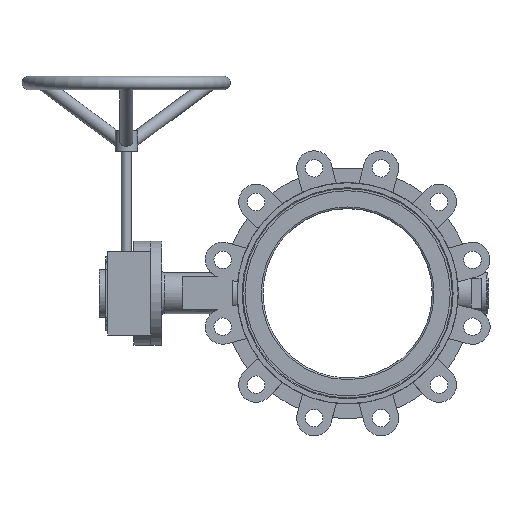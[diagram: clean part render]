
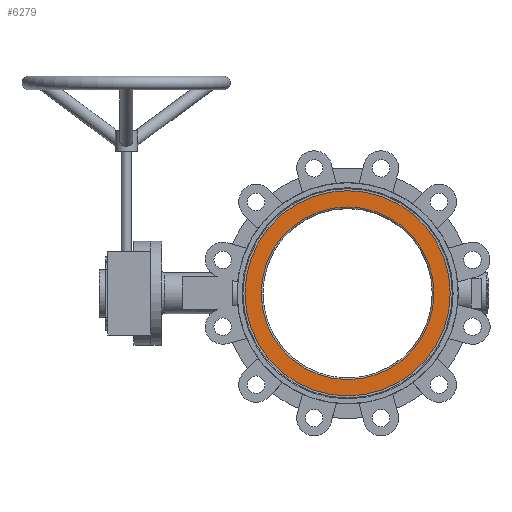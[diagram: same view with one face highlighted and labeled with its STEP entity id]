
A CAD part, left-side view. The second image highlights one B-rep face of the part: STEP entity #6279.
In plain terms, the highlighted planar face has unit normal (-1, 0, 0).
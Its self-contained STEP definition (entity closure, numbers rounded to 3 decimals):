
#402 = AXIS2_PLACEMENT_3D ( 'NONE', #425, #2094, #1271 ) ;
#425 = CARTESIAN_POINT ( 'NONE',  ( -32., 0., 0. ) ) ;
#512 = VERTEX_POINT ( 'NONE', #5973 ) ;
#1154 = CARTESIAN_POINT ( 'NONE',  ( -32., 0., 123. ) ) ;
#1157 = EDGE_LOOP ( 'NONE', ( #5480 ) ) ;
#1269 = VERTEX_POINT ( 'NONE', #1154 ) ;
#1271 = DIRECTION ( 'NONE',  ( 0., 0., 1. ) ) ;
#1969 = DIRECTION ( 'NONE',  ( 1., 0., 0. ) ) ;
#2094 = DIRECTION ( 'NONE',  ( -1., 0., 0. ) ) ;
#2171 = FACE_BOUND ( 'NONE', #5149, .T. ) ;
#2804 = FACE_OUTER_BOUND ( 'NONE', #1157, .T. ) ;
#2848 = CARTESIAN_POINT ( 'NONE',  ( -32., 0., 0. ) ) ;
#4984 = ORIENTED_EDGE ( 'NONE', *, *, #9302, .F. ) ;
#5149 = EDGE_LOOP ( 'NONE', ( #4984 ) ) ;
#5480 = ORIENTED_EDGE ( 'NONE', *, *, #9770, .T. ) ;
#5973 = CARTESIAN_POINT ( 'NONE',  ( -32., 0., 103.501 ) ) ;
#6279 = ADVANCED_FACE ( 'NONE', ( #2171, #2804 ), #9100, .F. ) ;
#6324 = AXIS2_PLACEMENT_3D ( 'NONE', #2848, #8503, #8443 ) ;
#6418 = CIRCLE ( 'NONE', #402, 103.501 ) ;
#7155 = CIRCLE ( 'NONE', #6324, 123. ) ;
#7592 = CARTESIAN_POINT ( 'NONE',  ( -32., 123., 0. ) ) ;
#7803 = AXIS2_PLACEMENT_3D ( 'NONE', #7592, #1969, #9137 ) ;
#8443 = DIRECTION ( 'NONE',  ( 0., 0., 1. ) ) ;
#8503 = DIRECTION ( 'NONE',  ( -1., 0., 0. ) ) ;
#9100 = PLANE ( 'NONE',  #7803 ) ;
#9137 = DIRECTION ( 'NONE',  ( 0., 0., -1. ) ) ;
#9302 = EDGE_CURVE ( 'NONE', #512, #512, #6418, .T. ) ;
#9770 = EDGE_CURVE ( 'NONE', #1269, #1269, #7155, .T. ) ;
